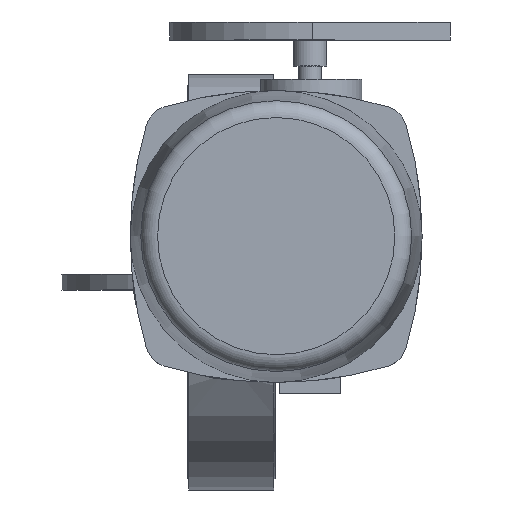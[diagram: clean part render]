
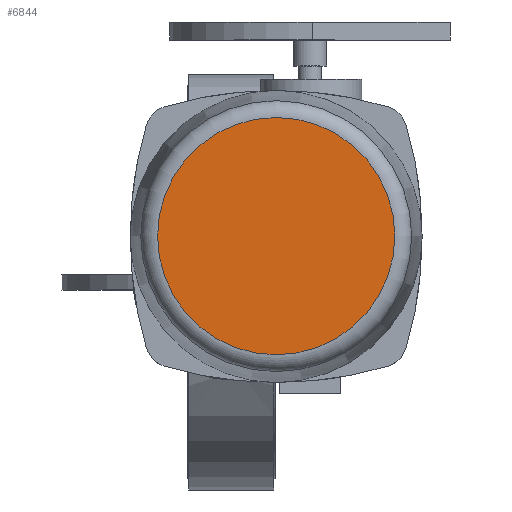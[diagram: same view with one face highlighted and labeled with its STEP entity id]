
A CAD part, top view. The second image highlights one B-rep face of the part: STEP entity #6844.
In plain terms, the highlighted planar face has unit normal (0, 0, 1).
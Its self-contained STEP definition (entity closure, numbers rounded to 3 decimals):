
#6844=ADVANCED_FACE('',(#12299),#12301,.T.);
#12299=FACE_BOUND('',#12300,.T.);
#12300=EDGE_LOOP('',(#16598));
#12301=PLANE('',#12302);
#12302=AXIS2_PLACEMENT_3D('',#12303,#12304,#12305);
#12303=CARTESIAN_POINT('',(40.,40.,672.));
#12304=DIRECTION('',(0.,0.,1.));
#12305=DIRECTION('',(-1.,0.,0.));
#16598=ORIENTED_EDGE('',*,*,#18776,.T.);
#18776=EDGE_CURVE('',#22373,#22373,#22374,.T.);
#22373=VERTEX_POINT('',#32763);
#22374=CIRCLE('',#32764,105.699);
#32763=CARTESIAN_POINT('',(-65.699,40.,672.));
#32764=AXIS2_PLACEMENT_3D('',#32765,#32766,#32767);
#32765=CARTESIAN_POINT('',(40.,40.,672.));
#32766=DIRECTION('',(0.,0.,1.));
#32767=DIRECTION('',(-1.,0.,0.));
